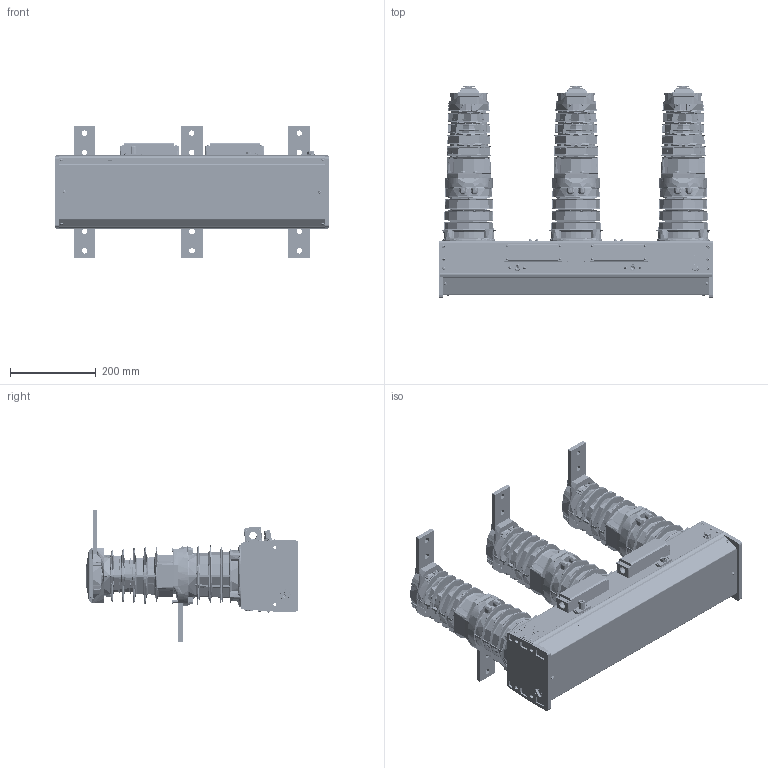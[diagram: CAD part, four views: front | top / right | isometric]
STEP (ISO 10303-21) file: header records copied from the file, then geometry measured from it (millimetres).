
FILE_DESCRIPTION (( 'STEP AP214' ), '1' );
FILE_NAME ('Optimat 舊-10 360.STEP', '2019-07-22T11:29:52', ( '' ), ( '' ), 'SwSTEP 2.0', 'SolidWorks 2018', '' );
FILE_SCHEMA (( 'AUTOMOTIVE_DESIGN' ));
Length unit declared in the file: millimetre
Products named in the file (479): Øóðóï 4.2õ13^Êîðïóñ_Optimat ÂÂ-10 (250); ﾘ琺磊 ﾃﾎﾑﾒ 11371; 侳緱鴇_膰艜魛瀖罻懤蹖; Ðàçúåì prt19^Ïëàòà 674152.001.06_Êîðïóñ_Optimat ÂÂ-10 (250); Îñíîâàíèå ðàçúåìà^Êîðïóñ_Optimat ÂÂ-10 (250); Ýòèêåòêà_ïîëîæåíèÿ_âàëà; 署赅 镱膻襦; Øóðóï 4.2õ9,5^Êîðïóñ_Optimat ÂÂ-10 (250); Âàêóóìíàÿ êàìåðà; ﾘ琺矜 C.10.37_11371; 鎗鵻罻_; 幄鍧; Áîëò Ì10õ20^Êîðïóñ_Optimat ÂÂ-10 (250); Êîðïóñ ïîëþñà íèç; 妈眚 󉱮0^暑痫篑_Optimat 侣-10 (250); Øàéáû óìåíüøåííûå ÃÎÑÒ 10450_˜ ©¡  €4.01.10ª¯.019 ƒŽ‘’ 10450-78; Øòîê èçîëÿòîðà; Øàéáà ïðóæèííàÿ ÃÎÑÒ6402 6_65_029_6402-70; Ðàçúåì prt19^Ïëàòà 674152.001.05_Êîðïóñ_Optimat ÂÂ-10 (250); 3.8 Âàë ñèíõðîíèçàöèè 674152.001.03^Êîðïóñ_Optimat ÂÂ-10 (250); Ïðóæèíà; 妈眚 󊅙2^暑痫篑_Optimat 侣-10 (250); 6-6gx30_7805; Âòóëêà_âåðõíÿÿ; Îñü; 醫贂膻嶱膰艜魛瀖罻懤蹖; Ýòèêåòêà ïîëîæåíèÿ âàëà; Ñèëèêîíîâàÿ îáîëî÷êà; Øàéáà ïðóæèííàÿ 10_65_029_6402-70; Îáìîòêà; Ãàéêà çàêëàäíàÿ Ì10^Êîðïóñ_Optimat ÂÂ-10 (250); Øàéáà 10 ÃÎÑÒ 11371^Êîðïóñ_Optimat ÂÂ-10 (250); Ïîëþñ; ïðîñòàâêà; Òÿãîâûé èçîëÿòîð; Ïëàòà 674152.001.05.001^Ïëàòà 674152.001.05_Êîðïóñ_Optimat ÂÂ-10 (250); Âòóëêêà 674152.001.03.003^3.8 Âàë ñèíõðîíèçàöèè 674152.001.03_Êîðïóñ_Optimat ÂÂ-10 (250); 逄闉; 扻豵鵨 瀁錌黟_瞂贂; Êðûøêà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
Assembly tree (244 placements, depth 4):
  Øóðóï 4.2õ13^Êîðïóñ_Optimat ÂÂ-10 (250)
  ﾘ琺磊 ﾃﾎﾑﾒ 11371
  Ðàçúåì prt19^Ïëàòà 674152.001.06_Êîðïóñ_Optimat ÂÂ-10 (250)
  Ýòèêåòêà_ïîëîæåíèÿ_âàëà
  署赅 镱膻襦
Bounding box: 640.4 x 494.5 x 309.87 mm (x, y, z)
Volume: 8916431 mm3; surface area: 4040184 mm2
Topology: 362 solids, 419 shells, 39215 faces, 104944 edges, 68175 vertices
Faces by surface type: plane 18225, cylinder 11648, bspline 6083, torus 1558, cone 1417, sphere 284
Entity records: 720274 total; most frequent: CARTESIAN_POINT 321696, ORIENTED_EDGE 91819, DIRECTION 54018, EDGE_CURVE 46020, VERTEX_POINT 30180, B_SPLINE_CURVE_WITH_KNOTS 26266, AXIS2_PLACEMENT_3D 20030, EDGE_LOOP 18290
